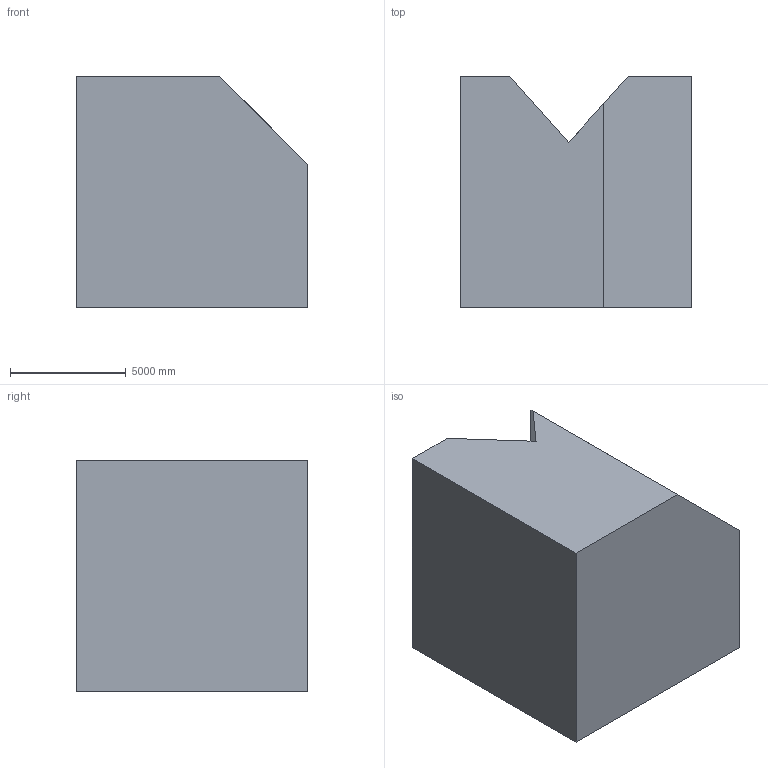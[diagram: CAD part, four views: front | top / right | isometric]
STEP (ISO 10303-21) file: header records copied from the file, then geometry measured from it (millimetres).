
FILE_DESCRIPTION (( 'STEP AP203' ), '1' );
FILE_NAME ('1054.STEP', '2022-08-18T12:34:55', ( 'user' ), ( '' ), 'SwSTEP 2.0', 'SolidWorks 2021', '' );
FILE_SCHEMA (( 'CONFIG_CONTROL_DESIGN' ));
Length unit declared in the file: centimetre
Products named in the file (1): 1054
Bounding box: 10000 x 10000 x 10000 mm (x, y, z)
Volume: 854533272846.5 mm3; surface area: 573706960 mm2
Topology: 1 solids, 1 shells, 10 faces, 24 edges, 16 vertices
Faces by surface type: plane 10
Entity records: 365 total; most frequent: CARTESIAN_POINT 51, ORIENTED_EDGE 48, DIRECTION 46, VECTOR 24, EDGE_CURVE 24, LINE 24, VERTEX_POINT 16, AXIS2_PLACEMENT_3D 11
